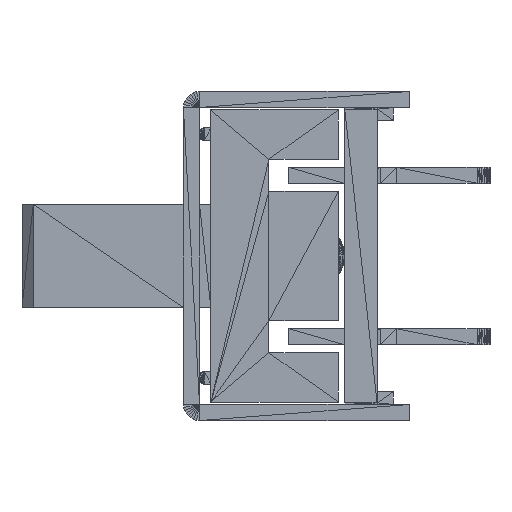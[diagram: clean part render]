
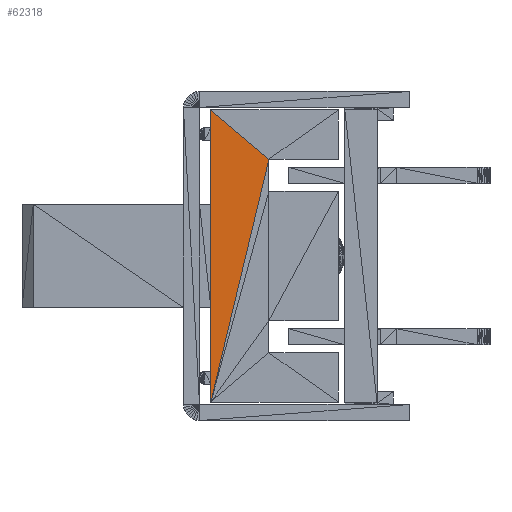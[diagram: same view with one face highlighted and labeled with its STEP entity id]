
A CAD part, left-side view. The second image highlights one B-rep face of the part: STEP entity #62318.
In plain terms, the highlighted planar face has unit normal (-1, 0, 0).
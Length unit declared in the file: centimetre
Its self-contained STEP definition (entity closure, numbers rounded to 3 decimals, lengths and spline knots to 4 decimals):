
#1682=DIRECTION('',(0.,0.,1.));
#1982=DIRECTION('',(0.,-0.233,0.973));
#1986=DIRECTION('',(0.,-0.763,-0.646));
#5236=VECTOR('',#1682,1.);
#5536=VECTOR('',#1982,1.);
#5540=VECTOR('',#1986,1.);
#7652=CARTESIAN_POINT('',(0.0225,0.615,-0.9625));
#7696=CARTESIAN_POINT('',(0.0225,0.615,-0.0575));
#7701=CARTESIAN_POINT('',(0.0225,0.435,-0.21));
#9780=VERTEX_POINT('',#7652);
#9824=VERTEX_POINT('',#7696);
#9829=VERTEX_POINT('',#7701);
#15531=LINE('',#7652,#5236);
#15534=LINE('',#7696,#5540);
#15698=LINE('',#7652,#5536);
#22089=EDGE_CURVE('',#9780,#9824,#15531,.T.);
#22092=EDGE_CURVE('',#9824,#9829,#15534,.T.);
#22256=EDGE_CURVE('',#9780,#9829,#15698,.T.);
#28814=ORIENTED_EDGE('',*,*,#22256,.T.);
#35205=ORIENTED_EDGE('',*,*,#22089,.F.);
#35208=ORIENTED_EDGE('',*,*,#22092,.F.);
#40458=EDGE_LOOP('',(#28814,#35208,#35205));
#44830=FACE_OUTER_BOUND('',#40458,.T.);
#52009=DIRECTION('',(-1.,0.,0.));
#52010=AXIS2_PLACEMENT_3D('',#7652,#52009,#1982);
#57946=PLANE('',#52010);
#62318=ADVANCED_FACE('',(#44830),#57946,.T.);
